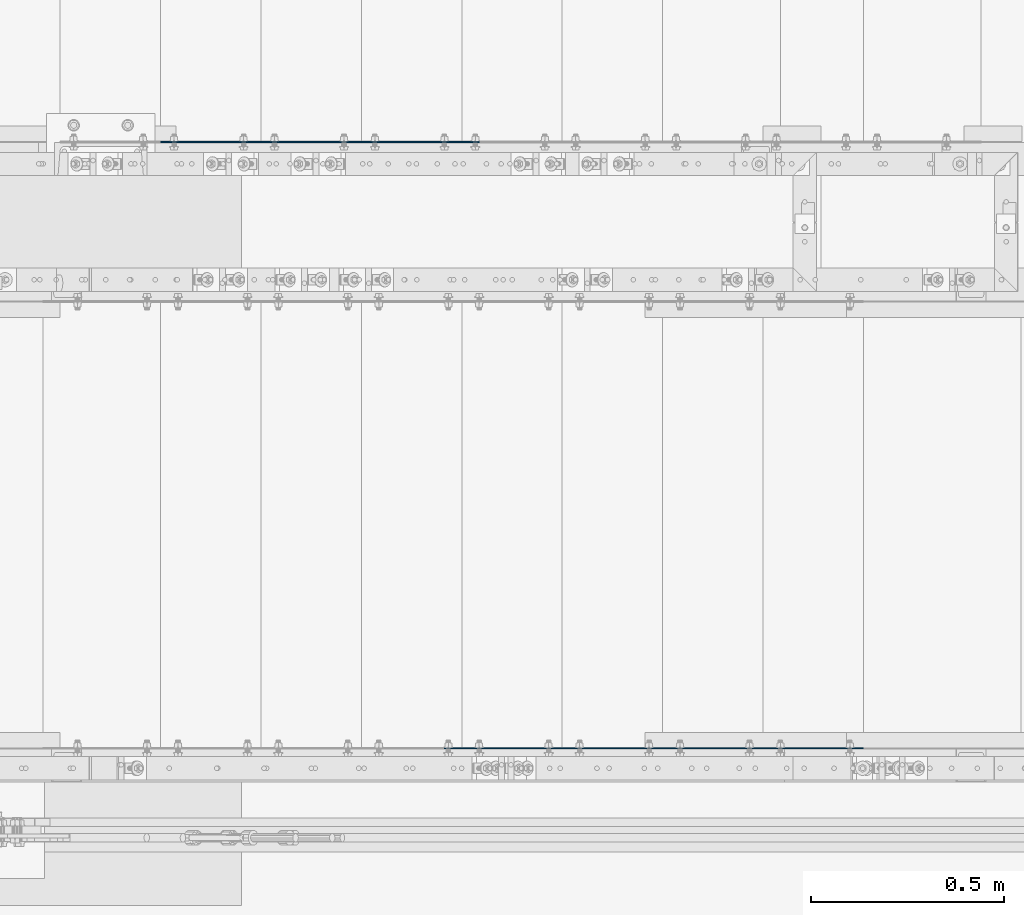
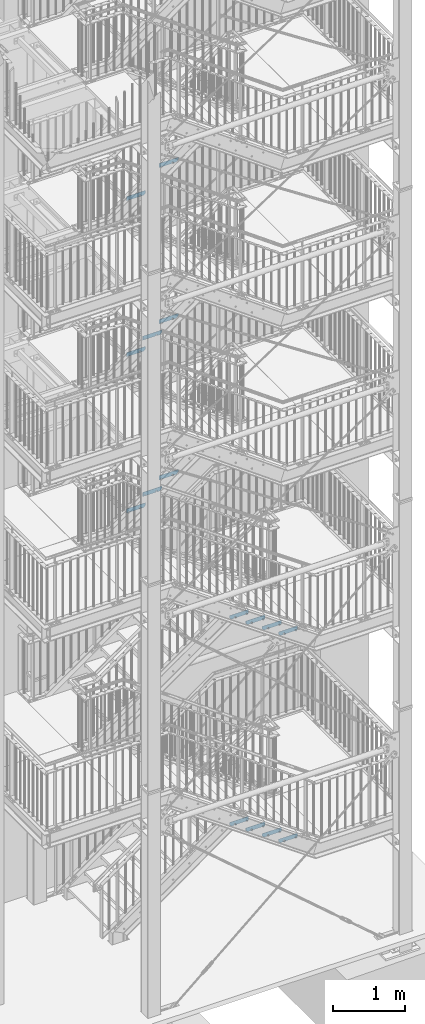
# One storey, part 168 of 825: 16 plates, 32 openings.
"""IFC2X3 building model written with IfcOpenShell, lengths in millimetres."""

from ifc_helpers import new_model, entity, si_unit, converted_unit, point, frame, frame_2d, origin, origin_with_axes, origin_2d_with_axis, place, context, project, spatial, polyline, circle_curve, line_curve, trimmed, segment, composite_curve, circle, outline, extrude, material, layer, layer_set, element, save


model = new_model("IFC2X3")

# Units and contexts
model_context = context("Model", 3, precision=1e-09, world=origin_with_axes())
ifc_project = project(units=[si_unit("LENGTHUNIT", "METRE", prefix="MILLI"), si_unit("AREAUNIT", "SQUARE_METRE"), si_unit("VOLUMEUNIT", "CUBIC_METRE"), converted_unit("PLANEANGLEUNIT", "DEGREE", entity("IfcPlaneAngleMeasure", 0.01745329), si_unit("PLANEANGLEUNIT", "RADIAN"), dimensions=[0, 0, 0, 0, 0, 0, 0])], contexts=[model_context])

# Site, building, storey
site_placement = place(None, origin_with_axes())
site = spatial("IfcSite", under=ifc_project, at=site_placement, Name="Cnopf'sche Kinderklinik", CompositionType="ELEMENT")
building_placement = place(site_placement, origin_with_axes())
building = spatial("IfcBuilding", under=site, at=building_placement, Name="Struktur 1", CompositionType="ELEMENT")
storey_placement = place(building_placement, origin_with_axes())
storey = spatial("IfcBuildingStorey", under=building, at=storey_placement, Name="Default Storey", CompositionType="ELEMENT", Elevation=0.0)

# Plate, openings
ifc_material = material(Name="S235JR")
ifc_layer = layer(ifc_material, 3.0)
ifc_layer_set = layer_set([ifc_layer], Name="S235JR")
plate_1_placement = place(None, frame((5756.713402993, 6149.736971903, 10367.2857148), z_axis=(0.0, -1.0, 0.0), x_axis=(0.0, 0.0, -1.0)))
plate_1 = element("IfcPlate", 1, at=plate_1_placement, inside=storey, material=ifc_layer_set, Name="Grate_Step#10", ObjectType="Grate_Step#10", context=model_context, shape_type="SweptSolid", body=[
    extrude(outline(polyline([(0.0, 0.0), (70.0, 0.0), (70.0, 275.0), (40.0, 305.0), (0.0, 305.0), (0.0, 0.0)])), origin_with_axes(), (0.0, 0.0, 1.0), 3.0),
])
opening_1_placement = place(plate_1_placement, frame((55.0, 35.0, -0.5), z_axis=(0.0, 0.0, 1.0), x_axis=(0.0, 1.0, 0.0)))
element("IfcOpeningElement", 2, at=opening_1_placement, cuts=plate_1, ObjectType="Opening", context=model_context, shape_type="SweptSolid", body=[
    extrude(circle(Radius=7.001, at=origin_2d_with_axis()), origin(), (0.0, 0.0, 1.0), 4.0),
])
opening_2_placement = place(plate_1_placement, frame((55.0, 215.0, -0.5), z_axis=(0.0, 0.0, 1.0), x_axis=(0.0, 1.0, 0.0)))
element("IfcOpeningElement", 3, at=opening_2_placement, cuts=plate_1, ObjectType="Opening", context=model_context, shape_type="SweptSolid", body=[
    extrude(outline(composite_curve([segment(trimmed(line_curve((-9.5, -7.001), (1.0, 0.0), 19.0), [point((-9.5, -7.001))], [point((9.5, -7.001))], True, "CARTESIAN"), True, "CONTINUOUS"), segment(trimmed(circle_curve(frame_2d((9.5, 0.0), x_axis=(1.0, 0.0)), 7.001), [point((9.5, -7.001))], [point((9.5, 7.001))], True, "CARTESIAN"), True, "CONTINUOUS"), segment(trimmed(line_curve((9.5, 7.001), (-1.0, 0.0), 19.0), [point((9.5, 7.001))], [point((-9.5, 7.001))], True, "CARTESIAN"), True, "CONTINUOUS"), segment(trimmed(circle_curve(frame_2d((-9.5, 0.0), x_axis=(1.0, 0.0)), 7.001), [point((-9.5, 7.001))], [point((-9.5, -7.001))], True, "CARTESIAN"), True, "CONTINUOUS")], self_intersect=False)), origin(), (0.0, 0.0, 1.0), 4.0),
])

plate_2_placement = place(None, frame((5496.713402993, 6149.736971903, 10179.6428577), z_axis=(0.0, -1.0, 0.0), x_axis=(0.0, 0.0, -1.0)))
plate_2 = element("IfcPlate", 4, at=plate_2_placement, inside=storey, material=ifc_layer_set, Name="Grate_Step#3", ObjectType="Grate_Step#3", context=model_context, shape_type="SweptSolid", body=[
    extrude(outline(polyline([(0.0, 0.0), (70.0, 0.0), (70.0, 275.0), (40.0, 305.0), (0.0, 305.0), (0.0, 0.0)])), origin_with_axes(), (0.0, 0.0, 1.0), 3.0),
])
opening_3_placement = place(plate_2_placement, frame((55.0, 215.0, -0.5), z_axis=(0.0, 0.0, 1.0), x_axis=(0.0, 1.0, 0.0)))
element("IfcOpeningElement", 5, at=opening_3_placement, cuts=plate_2, ObjectType="Opening", context=model_context, shape_type="SweptSolid", body=[
    extrude(outline(composite_curve([segment(trimmed(line_curve((-9.5, -7.001), (1.0, 0.0), 19.0), [point((-9.5, -7.001))], [point((9.5, -7.001))], True, "CARTESIAN"), True, "CONTINUOUS"), segment(trimmed(circle_curve(frame_2d((9.5, 0.0), x_axis=(1.0, 0.0)), 7.001), [point((9.5, -7.001))], [point((9.5, 7.001))], True, "CARTESIAN"), True, "CONTINUOUS"), segment(trimmed(line_curve((9.5, 7.001), (-1.0, 0.0), 19.0), [point((9.5, 7.001))], [point((-9.5, 7.001))], True, "CARTESIAN"), True, "CONTINUOUS"), segment(trimmed(circle_curve(frame_2d((-9.5, 0.0), x_axis=(1.0, 0.0)), 7.001), [point((-9.5, 7.001))], [point((-9.5, -7.001))], True, "CARTESIAN"), True, "CONTINUOUS")], self_intersect=False)), origin(), (0.0, 0.0, 1.0), 4.0),
])
opening_4_placement = place(plate_2_placement, frame((55.0, 35.0, -0.5), z_axis=(0.0, 0.0, 1.0), x_axis=(0.0, 1.0, 0.0)))
element("IfcOpeningElement", 6, at=opening_4_placement, cuts=plate_2, ObjectType="Opening", context=model_context, shape_type="SweptSolid", body=[
    extrude(circle(Radius=7.001, at=origin_2d_with_axis()), origin(), (0.0, 0.0, 1.0), 4.0),
])

plate_3_placement = place(None, frame((6016.713402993, 6149.736971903, 10554.9285719), z_axis=(0.0, -1.0, 0.0), x_axis=(0.0, 0.0, -1.0)))
plate_3 = element("IfcPlate", 7, at=plate_3_placement, inside=storey, material=ifc_layer_set, Name="Grate_Step#17", ObjectType="Grate_Step#17", context=model_context, shape_type="SweptSolid", body=[
    extrude(outline(polyline([(0.0, 0.0), (70.0, 0.0), (70.0, 275.0), (40.0, 305.0), (0.0, 305.0), (0.0, 0.0)])), origin_with_axes(), (0.0, 0.0, 1.0), 3.0),
])
opening_5_placement = place(plate_3_placement, frame((55.0, 35.0, -0.5), z_axis=(0.0, 0.0, 1.0), x_axis=(0.0, 1.0, 0.0)))
element("IfcOpeningElement", 8, at=opening_5_placement, cuts=plate_3, ObjectType="Opening", context=model_context, shape_type="SweptSolid", body=[
    extrude(circle(Radius=7.001, at=origin_2d_with_axis()), origin(), (0.0, 0.0, 1.0), 4.0),
])
opening_6_placement = place(plate_3_placement, frame((55.0, 215.0, -0.5), z_axis=(0.0, 0.0, 1.0), x_axis=(0.0, 1.0, 0.0)))
element("IfcOpeningElement", 9, at=opening_6_placement, cuts=plate_3, ObjectType="Opening", context=model_context, shape_type="SweptSolid", body=[
    extrude(outline(composite_curve([segment(trimmed(line_curve((-9.5, -7.001), (1.0, 0.0), 19.0), [point((-9.5, -7.001))], [point((9.5, -7.001))], True, "CARTESIAN"), True, "CONTINUOUS"), segment(trimmed(circle_curve(frame_2d((9.5, 0.0), x_axis=(1.0, 0.0)), 7.001), [point((9.5, -7.001))], [point((9.5, 7.001))], True, "CARTESIAN"), True, "CONTINUOUS"), segment(trimmed(line_curve((9.5, 7.001), (-1.0, 0.0), 19.0), [point((9.5, 7.001))], [point((-9.5, 7.001))], True, "CARTESIAN"), True, "CONTINUOUS"), segment(trimmed(circle_curve(frame_2d((-9.5, 0.0), x_axis=(1.0, 0.0)), 7.001), [point((-9.5, 7.001))], [point((-9.5, -7.001))], True, "CARTESIAN"), True, "CONTINUOUS")], self_intersect=False)), origin(), (0.0, 0.0, 1.0), 4.0),
])

plate_4_placement = place(None, frame((6016.713402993, 6149.736971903, 7924.0), z_axis=(0.0, -1.0, 0.0), x_axis=(0.0, 0.0, -1.0)))
plate_4 = element("IfcPlate", 10, at=plate_4_placement, inside=storey, material=ifc_layer_set, Name="Grate_Step#17", ObjectType="Grate_Step#17", context=model_context, shape_type="SweptSolid", body=[
    extrude(outline(polyline([(0.0, 0.0), (70.0, 0.0), (70.0, 275.0), (40.0, 305.0), (0.0, 305.0), (0.0, 0.0)])), origin_with_axes(), (0.0, 0.0, 1.0), 3.0),
])
opening_7_placement = place(plate_4_placement, frame((55.0, 215.0, -0.5), z_axis=(0.0, 0.0, 1.0), x_axis=(0.0, 1.0, 0.0)))
element("IfcOpeningElement", 11, at=opening_7_placement, cuts=plate_4, ObjectType="Opening", context=model_context, shape_type="SweptSolid", body=[
    extrude(outline(composite_curve([segment(trimmed(line_curve((-9.5, -7.001), (1.0, 0.0), 19.0), [point((-9.5, -7.001))], [point((9.5, -7.001))], True, "CARTESIAN"), True, "CONTINUOUS"), segment(trimmed(circle_curve(frame_2d((9.5, 0.0), x_axis=(1.0, 0.0)), 7.001), [point((9.5, -7.001))], [point((9.5, 7.001))], True, "CARTESIAN"), True, "CONTINUOUS"), segment(trimmed(line_curve((9.5, 7.001), (-1.0, 0.0), 19.0), [point((9.5, 7.001))], [point((-9.5, 7.001))], True, "CARTESIAN"), True, "CONTINUOUS"), segment(trimmed(circle_curve(frame_2d((-9.5, 0.0), x_axis=(1.0, 0.0)), 7.001), [point((-9.5, 7.001))], [point((-9.5, -7.001))], True, "CARTESIAN"), True, "CONTINUOUS")], self_intersect=False)), origin(), (0.0, 0.0, 1.0), 4.0),
])
opening_8_placement = place(plate_4_placement, frame((55.0, 35.0, -0.5), z_axis=(0.0, 0.0, 1.0), x_axis=(0.0, 1.0, 0.0)))
element("IfcOpeningElement", 12, at=opening_8_placement, cuts=plate_4, ObjectType="Opening", context=model_context, shape_type="SweptSolid", body=[
    extrude(circle(Radius=7.001, at=origin_2d_with_axis()), origin(), (0.0, 0.0, 1.0), 4.0),
])

plate_5_placement = place(None, frame((5496.713402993, 6149.736971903, 7548.0), z_axis=(0.0, -1.0, 0.0), x_axis=(0.0, 0.0, -1.0)))
plate_5 = element("IfcPlate", 13, at=plate_5_placement, inside=storey, material=ifc_layer_set, Name="Grate_Step#3", ObjectType="Grate_Step#3", context=model_context, shape_type="SweptSolid", body=[
    extrude(outline(polyline([(0.0, 0.0), (70.0, 0.0), (70.0, 275.0), (40.0, 305.0), (0.0, 305.0), (0.0, 0.0)])), origin_with_axes(), (0.0, 0.0, 1.0), 3.0),
])
opening_9_placement = place(plate_5_placement, frame((55.0, 215.0, -0.5), z_axis=(0.0, 0.0, 1.0), x_axis=(0.0, 1.0, 0.0)))
element("IfcOpeningElement", 14, at=opening_9_placement, cuts=plate_5, ObjectType="Opening", context=model_context, shape_type="SweptSolid", body=[
    extrude(outline(composite_curve([segment(trimmed(line_curve((-9.5, -7.001), (1.0, 0.0), 19.0), [point((-9.5, -7.001))], [point((9.5, -7.001))], True, "CARTESIAN"), True, "CONTINUOUS"), segment(trimmed(circle_curve(frame_2d((9.5, 0.0), x_axis=(1.0, 0.0)), 7.001), [point((9.5, -7.001))], [point((9.5, 7.001))], True, "CARTESIAN"), True, "CONTINUOUS"), segment(trimmed(line_curve((9.5, 7.001), (-1.0, 0.0), 19.0), [point((9.5, 7.001))], [point((-9.5, 7.001))], True, "CARTESIAN"), True, "CONTINUOUS"), segment(trimmed(circle_curve(frame_2d((-9.5, 0.0), x_axis=(1.0, 0.0)), 7.001), [point((-9.5, 7.001))], [point((-9.5, -7.001))], True, "CARTESIAN"), True, "CONTINUOUS")], self_intersect=False)), origin(), (0.0, 0.0, 1.0), 4.0),
])
opening_10_placement = place(plate_5_placement, frame((55.0, 35.0, -0.5), z_axis=(0.0, 0.0, 1.0), x_axis=(0.0, 1.0, 0.0)))
element("IfcOpeningElement", 15, at=opening_10_placement, cuts=plate_5, ObjectType="Opening", context=model_context, shape_type="SweptSolid", body=[
    extrude(circle(Radius=7.001, at=origin_2d_with_axis()), origin(), (0.0, 0.0, 1.0), 4.0),
])

plate_6_placement = place(None, frame((5756.713402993, 6149.736971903, 7736.0), z_axis=(0.0, -1.0, 0.0), x_axis=(0.0, 0.0, -1.0)))
plate_6 = element("IfcPlate", 16, at=plate_6_placement, inside=storey, material=ifc_layer_set, Name="Grate_Step#10", ObjectType="Grate_Step#10", context=model_context, shape_type="SweptSolid", body=[
    extrude(outline(polyline([(0.0, 0.0), (70.0, 0.0), (70.0, 275.0), (40.0, 305.0), (0.0, 305.0), (0.0, 0.0)])), origin_with_axes(), (0.0, 0.0, 1.0), 3.0),
])
opening_11_placement = place(plate_6_placement, frame((55.0, 215.0, -0.5), z_axis=(0.0, 0.0, 1.0), x_axis=(0.0, 1.0, 0.0)))
element("IfcOpeningElement", 17, at=opening_11_placement, cuts=plate_6, ObjectType="Opening", context=model_context, shape_type="SweptSolid", body=[
    extrude(outline(composite_curve([segment(trimmed(line_curve((-9.5, -7.001), (1.0, 0.0), 19.0), [point((-9.5, -7.001))], [point((9.5, -7.001))], True, "CARTESIAN"), True, "CONTINUOUS"), segment(trimmed(circle_curve(frame_2d((9.5, 0.0), x_axis=(1.0, 0.0)), 7.001), [point((9.5, -7.001))], [point((9.5, 7.001))], True, "CARTESIAN"), True, "CONTINUOUS"), segment(trimmed(line_curve((9.5, 7.001), (-1.0, 0.0), 19.0), [point((9.5, 7.001))], [point((-9.5, 7.001))], True, "CARTESIAN"), True, "CONTINUOUS"), segment(trimmed(circle_curve(frame_2d((-9.5, 0.0), x_axis=(1.0, 0.0)), 7.001), [point((-9.5, 7.001))], [point((-9.5, -7.001))], True, "CARTESIAN"), True, "CONTINUOUS")], self_intersect=False)), origin(), (0.0, 0.0, 1.0), 4.0),
])
opening_12_placement = place(plate_6_placement, frame((55.0, 35.0, -0.5), z_axis=(0.0, 0.0, 1.0), x_axis=(0.0, 1.0, 0.0)))
element("IfcOpeningElement", 18, at=opening_12_placement, cuts=plate_6, ObjectType="Opening", context=model_context, shape_type="SweptSolid", body=[
    extrude(circle(Radius=7.001, at=origin_2d_with_axis()), origin(), (0.0, 0.0, 1.0), 4.0),
])

plate_7_placement = place(None, frame((6016.713402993, 6149.736971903, 13183.6428573), z_axis=(0.0, -1.0, 0.0), x_axis=(0.0, 0.0, -1.0)))
plate_7 = element("IfcPlate", 19, at=plate_7_placement, inside=storey, material=ifc_layer_set, Name="Grate_Step#17", ObjectType="Grate_Step#17", context=model_context, shape_type="SweptSolid", body=[
    extrude(outline(polyline([(0.0, 0.0), (70.0, 0.0), (70.0, 275.0), (40.0, 305.0), (0.0, 305.0), (0.0, 0.0)])), origin_with_axes(), (0.0, 0.0, 1.0), 3.0),
])
opening_13_placement = place(plate_7_placement, frame((55.0, 35.0, -0.5), z_axis=(0.0, 0.0, 1.0), x_axis=(0.0, 1.0, 0.0)))
element("IfcOpeningElement", 20, at=opening_13_placement, cuts=plate_7, ObjectType="Opening", context=model_context, shape_type="SweptSolid", body=[
    extrude(circle(Radius=7.001, at=origin_2d_with_axis()), origin(), (0.0, 0.0, 1.0), 4.0),
])
opening_14_placement = place(plate_7_placement, frame((55.0, 215.0, -0.5), z_axis=(0.0, 0.0, 1.0), x_axis=(0.0, 1.0, 0.0)))
element("IfcOpeningElement", 21, at=opening_14_placement, cuts=plate_7, ObjectType="Opening", context=model_context, shape_type="SweptSolid", body=[
    extrude(outline(composite_curve([segment(trimmed(line_curve((-9.5, -7.001), (1.0, 0.0), 19.0), [point((-9.5, -7.001))], [point((9.5, -7.001))], True, "CARTESIAN"), True, "CONTINUOUS"), segment(trimmed(circle_curve(frame_2d((9.5, 0.0), x_axis=(1.0, 0.0)), 7.001), [point((9.5, -7.001))], [point((9.5, 7.001))], True, "CARTESIAN"), True, "CONTINUOUS"), segment(trimmed(line_curve((9.5, 7.001), (-1.0, 0.0), 19.0), [point((9.5, 7.001))], [point((-9.5, 7.001))], True, "CARTESIAN"), True, "CONTINUOUS"), segment(trimmed(circle_curve(frame_2d((-9.5, 0.0), x_axis=(1.0, 0.0)), 7.001), [point((-9.5, 7.001))], [point((-9.5, -7.001))], True, "CARTESIAN"), True, "CONTINUOUS")], self_intersect=False)), origin(), (0.0, 0.0, 1.0), 4.0),
])

plate_8_placement = place(None, frame((5496.713402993, 6149.736971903, 12807.2142859), z_axis=(0.0, -1.0, 0.0), x_axis=(0.0, 0.0, -1.0)))
plate_8 = element("IfcPlate", 22, at=plate_8_placement, inside=storey, material=ifc_layer_set, Name="Grate_Step#3", ObjectType="Grate_Step#3", context=model_context, shape_type="SweptSolid", body=[
    extrude(outline(polyline([(0.0, 0.0), (70.0, 0.0), (70.0, 275.0), (40.0, 305.0), (0.0, 305.0), (0.0, 0.0)])), origin_with_axes(), (0.0, 0.0, 1.0), 3.0),
])
opening_15_placement = place(plate_8_placement, frame((55.0, 215.0, -0.5), z_axis=(0.0, 0.0, 1.0), x_axis=(0.0, 1.0, 0.0)))
element("IfcOpeningElement", 23, at=opening_15_placement, cuts=plate_8, ObjectType="Opening", context=model_context, shape_type="SweptSolid", body=[
    extrude(outline(composite_curve([segment(trimmed(line_curve((-9.5, -7.001), (1.0, 0.0), 19.0), [point((-9.5, -7.001))], [point((9.5, -7.001))], True, "CARTESIAN"), True, "CONTINUOUS"), segment(trimmed(circle_curve(frame_2d((9.5, 0.0), x_axis=(1.0, 0.0)), 7.001), [point((9.5, -7.001))], [point((9.5, 7.001))], True, "CARTESIAN"), True, "CONTINUOUS"), segment(trimmed(line_curve((9.5, 7.001), (-1.0, 0.0), 19.0), [point((9.5, 7.001))], [point((-9.5, 7.001))], True, "CARTESIAN"), True, "CONTINUOUS"), segment(trimmed(circle_curve(frame_2d((-9.5, 0.0), x_axis=(1.0, 0.0)), 7.001), [point((-9.5, 7.001))], [point((-9.5, -7.001))], True, "CARTESIAN"), True, "CONTINUOUS")], self_intersect=False)), origin(), (0.0, 0.0, 1.0), 4.0),
])
opening_16_placement = place(plate_8_placement, frame((55.0, 35.0, -0.5), z_axis=(0.0, 0.0, 1.0), x_axis=(0.0, 1.0, 0.0)))
element("IfcOpeningElement", 24, at=opening_16_placement, cuts=plate_8, ObjectType="Opening", context=model_context, shape_type="SweptSolid", body=[
    extrude(circle(Radius=7.001, at=origin_2d_with_axis()), origin(), (0.0, 0.0, 1.0), 4.0),
])

plate_9_placement = place(None, frame((6536.713402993, 4576.736971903, 6446.0526315), z_axis=(0.0, 1.0, 0.0), x_axis=(0.0, 0.0, -1.0)))
plate_9 = element("IfcPlate", 25, at=plate_9_placement, inside=storey, material=ifc_layer_set, Name="Grate_Step#23", ObjectType="Grate_Step#23", context=model_context, shape_type="SweptSolid", body=[
    extrude(outline(polyline([(0.0, 0.0), (70.0, 0.0), (70.0, 275.0), (40.0, 305.0), (0.0, 305.0), (0.0, 0.0)])), origin_with_axes(), (0.0, 0.0, 1.0), 3.0),
])
opening_17_placement = place(plate_9_placement, frame((55.0, 35.0, 3.5), z_axis=(0.0, 0.0, -1.0), x_axis=(0.0, 1.0, 0.0)))
element("IfcOpeningElement", 26, at=opening_17_placement, cuts=plate_9, ObjectType="Opening", context=model_context, shape_type="SweptSolid", body=[
    extrude(circle(Radius=7.001, at=origin_2d_with_axis()), origin(), (0.0, 0.0, 1.0), 4.0),
])
opening_18_placement = place(plate_9_placement, frame((55.0, 215.0, 3.5), z_axis=(0.0, 0.0, -1.0), x_axis=(0.0, 1.0, 0.0)))
element("IfcOpeningElement", 27, at=opening_18_placement, cuts=plate_9, ObjectType="Opening", context=model_context, shape_type="SweptSolid", body=[
    extrude(outline(composite_curve([segment(trimmed(line_curve((-9.5, -7.001), (1.0, 0.0), 19.0), [point((-9.5, -7.001))], [point((9.5, -7.001))], True, "CARTESIAN"), True, "CONTINUOUS"), segment(trimmed(circle_curve(frame_2d((9.5, 0.0), x_axis=(1.0, 0.0)), 7.001), [point((9.5, -7.001))], [point((9.5, 7.001))], True, "CARTESIAN"), True, "CONTINUOUS"), segment(trimmed(line_curve((9.5, 7.001), (-1.0, 0.0), 19.0), [point((9.5, 7.001))], [point((-9.5, 7.001))], True, "CARTESIAN"), True, "CONTINUOUS"), segment(trimmed(circle_curve(frame_2d((-9.5, 0.0), x_axis=(1.0, 0.0)), 7.001), [point((-9.5, 7.001))], [point((-9.5, -7.001))], True, "CARTESIAN"), True, "CONTINUOUS")], self_intersect=False)), origin(), (0.0, 0.0, 1.0), 4.0),
])

plate_10_placement = place(None, frame((7316.713402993, 4576.736971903, 5897.6842104), z_axis=(0.0, 1.0, 0.0), x_axis=(0.0, 0.0, -1.0)))
plate_10 = element("IfcPlate", 28, at=plate_10_placement, inside=storey, material=ifc_layer_set, Name="Grate_Step#2", ObjectType="Grate_Step#2", context=model_context, shape_type="SweptSolid", body=[
    extrude(outline(polyline([(0.0, 0.0), (70.0, 0.0), (70.0, 275.0), (40.0, 305.0), (0.0, 305.0), (0.0, 0.0)])), origin_with_axes(), (0.0, 0.0, 1.0), 3.0),
])
opening_19_placement = place(plate_10_placement, frame((55.0, 35.0, 3.5), z_axis=(0.0, 0.0, -1.0), x_axis=(0.0, 1.0, 0.0)))
element("IfcOpeningElement", 29, at=opening_19_placement, cuts=plate_10, ObjectType="Opening", context=model_context, shape_type="SweptSolid", body=[
    extrude(circle(Radius=7.001, at=origin_2d_with_axis()), origin(), (0.0, 0.0, 1.0), 4.0),
])
opening_20_placement = place(plate_10_placement, frame((55.0, 215.0, 3.5), z_axis=(0.0, 0.0, -1.0), x_axis=(0.0, 1.0, 0.0)))
element("IfcOpeningElement", 30, at=opening_20_placement, cuts=plate_10, ObjectType="Opening", context=model_context, shape_type="SweptSolid", body=[
    extrude(outline(composite_curve([segment(trimmed(line_curve((-9.5, -7.001), (1.0, 0.0), 19.0), [point((-9.5, -7.001))], [point((9.5, -7.001))], True, "CARTESIAN"), True, "CONTINUOUS"), segment(trimmed(circle_curve(frame_2d((9.5, 0.0), x_axis=(1.0, 0.0)), 7.001), [point((9.5, -7.001))], [point((9.5, 7.001))], True, "CARTESIAN"), True, "CONTINUOUS"), segment(trimmed(line_curve((9.5, 7.001), (-1.0, 0.0), 19.0), [point((9.5, 7.001))], [point((-9.5, 7.001))], True, "CARTESIAN"), True, "CONTINUOUS"), segment(trimmed(circle_curve(frame_2d((-9.5, 0.0), x_axis=(1.0, 0.0)), 7.001), [point((-9.5, 7.001))], [point((-9.5, -7.001))], True, "CARTESIAN"), True, "CONTINUOUS")], self_intersect=False)), origin(), (0.0, 0.0, 1.0), 4.0),
])

plate_11_placement = place(None, frame((6796.713402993, 4576.736971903, 2776.3684208), z_axis=(0.0, 1.0, 0.0), x_axis=(0.0, 0.0, -1.0)))
plate_11 = element("IfcPlate", 31, at=plate_11_placement, inside=storey, material=ifc_layer_set, Name="Grate_Step#16", ObjectType="Grate_Step#16", context=model_context, shape_type="SweptSolid", body=[
    extrude(outline(polyline([(0.0, 0.0), (70.0, 0.0), (70.0, 275.0), (40.0, 305.0), (0.0, 305.0), (0.0, 0.0)])), origin_with_axes(), (0.0, 0.0, 1.0), 3.0),
])
opening_21_placement = place(plate_11_placement, frame((55.0, 215.0, 3.5), z_axis=(0.0, 0.0, -1.0), x_axis=(0.0, 1.0, 0.0)))
element("IfcOpeningElement", 32, at=opening_21_placement, cuts=plate_11, ObjectType="Opening", context=model_context, shape_type="SweptSolid", body=[
    extrude(outline(composite_curve([segment(trimmed(line_curve((-9.5, -7.001), (1.0, 0.0), 19.0), [point((-9.5, -7.001))], [point((9.5, -7.001))], True, "CARTESIAN"), True, "CONTINUOUS"), segment(trimmed(circle_curve(frame_2d((9.5, 0.0), x_axis=(1.0, 0.0)), 7.001), [point((9.5, -7.001))], [point((9.5, 7.001))], True, "CARTESIAN"), True, "CONTINUOUS"), segment(trimmed(line_curve((9.5, 7.001), (-1.0, 0.0), 19.0), [point((9.5, 7.001))], [point((-9.5, 7.001))], True, "CARTESIAN"), True, "CONTINUOUS"), segment(trimmed(circle_curve(frame_2d((-9.5, 0.0), x_axis=(1.0, 0.0)), 7.001), [point((-9.5, 7.001))], [point((-9.5, -7.001))], True, "CARTESIAN"), True, "CONTINUOUS")], self_intersect=False)), origin(), (0.0, 0.0, 1.0), 4.0),
])
opening_22_placement = place(plate_11_placement, frame((55.0, 35.0, 3.5), z_axis=(0.0, 0.0, -1.0), x_axis=(0.0, 1.0, 0.0)))
element("IfcOpeningElement", 33, at=opening_22_placement, cuts=plate_11, ObjectType="Opening", context=model_context, shape_type="SweptSolid", body=[
    extrude(circle(Radius=7.001, at=origin_2d_with_axis()), origin(), (0.0, 0.0, 1.0), 4.0),
])

plate_12_placement = place(None, frame((7316.713402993, 4576.736971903, 2406.1578944), z_axis=(0.0, 1.0, 0.0), x_axis=(0.0, 0.0, -1.0)))
plate_12 = element("IfcPlate", 34, at=plate_12_placement, inside=storey, material=ifc_layer_set, Name="Grate_Step#2", ObjectType="Grate_Step#2", context=model_context, shape_type="SweptSolid", body=[
    extrude(outline(polyline([(0.0, 0.0), (70.0, 0.0), (70.0, 275.0), (40.0, 305.0), (0.0, 305.0), (0.0, 0.0)])), origin_with_axes(), (0.0, 0.0, 1.0), 3.0),
])
opening_23_placement = place(plate_12_placement, frame((55.0, 215.0, 3.5), z_axis=(0.0, 0.0, -1.0), x_axis=(0.0, 1.0, 0.0)))
element("IfcOpeningElement", 35, at=opening_23_placement, cuts=plate_12, ObjectType="Opening", context=model_context, shape_type="SweptSolid", body=[
    extrude(outline(composite_curve([segment(trimmed(line_curve((-9.5, -7.001), (1.0, 0.0), 19.0), [point((-9.5, -7.001))], [point((9.5, -7.001))], True, "CARTESIAN"), True, "CONTINUOUS"), segment(trimmed(circle_curve(frame_2d((9.5, 0.0), x_axis=(1.0, 0.0)), 7.001), [point((9.5, -7.001))], [point((9.5, 7.001))], True, "CARTESIAN"), True, "CONTINUOUS"), segment(trimmed(line_curve((9.5, 7.001), (-1.0, 0.0), 19.0), [point((9.5, 7.001))], [point((-9.5, 7.001))], True, "CARTESIAN"), True, "CONTINUOUS"), segment(trimmed(circle_curve(frame_2d((-9.5, 0.0), x_axis=(1.0, 0.0)), 7.001), [point((-9.5, 7.001))], [point((-9.5, -7.001))], True, "CARTESIAN"), True, "CONTINUOUS")], self_intersect=False)), origin(), (0.0, 0.0, 1.0), 4.0),
])
opening_24_placement = place(plate_12_placement, frame((55.0, 35.0, 3.5), z_axis=(0.0, 0.0, -1.0), x_axis=(0.0, 1.0, 0.0)))
element("IfcOpeningElement", 36, at=opening_24_placement, cuts=plate_12, ObjectType="Opening", context=model_context, shape_type="SweptSolid", body=[
    extrude(circle(Radius=7.001, at=origin_2d_with_axis()), origin(), (0.0, 0.0, 1.0), 4.0),
])

plate_13_placement = place(None, frame((7056.713402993, 4576.736971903, 6080.4736841), z_axis=(0.0, 1.0, 0.0), x_axis=(0.0, 0.0, -1.0)))
plate_13 = element("IfcPlate", 37, at=plate_13_placement, inside=storey, material=ifc_layer_set, Name="Grate_Step#9", ObjectType="Grate_Step#9", context=model_context, shape_type="SweptSolid", body=[
    extrude(outline(polyline([(0.0, 0.0), (70.0, 0.0), (70.0, 275.0), (40.0, 305.0), (0.0, 305.0), (0.0, 0.0)])), origin_with_axes(), (0.0, 0.0, 1.0), 3.0),
])
opening_25_placement = place(plate_13_placement, frame((55.0, 215.0, 3.5), z_axis=(0.0, 0.0, -1.0), x_axis=(0.0, 1.0, 0.0)))
element("IfcOpeningElement", 38, at=opening_25_placement, cuts=plate_13, ObjectType="Opening", context=model_context, shape_type="SweptSolid", body=[
    extrude(outline(composite_curve([segment(trimmed(line_curve((-9.5, -7.001), (1.0, 0.0), 19.0), [point((-9.5, -7.001))], [point((9.5, -7.001))], True, "CARTESIAN"), True, "CONTINUOUS"), segment(trimmed(circle_curve(frame_2d((9.5, 0.0), x_axis=(1.0, 0.0)), 7.001), [point((9.5, -7.001))], [point((9.5, 7.001))], True, "CARTESIAN"), True, "CONTINUOUS"), segment(trimmed(line_curve((9.5, 7.001), (-1.0, 0.0), 19.0), [point((9.5, 7.001))], [point((-9.5, 7.001))], True, "CARTESIAN"), True, "CONTINUOUS"), segment(trimmed(circle_curve(frame_2d((-9.5, 0.0), x_axis=(1.0, 0.0)), 7.001), [point((-9.5, 7.001))], [point((-9.5, -7.001))], True, "CARTESIAN"), True, "CONTINUOUS")], self_intersect=False)), origin(), (0.0, 0.0, 1.0), 4.0),
])
opening_26_placement = place(plate_13_placement, frame((55.0, 35.0, 3.5), z_axis=(0.0, 0.0, -1.0), x_axis=(0.0, 1.0, 0.0)))
element("IfcOpeningElement", 39, at=opening_26_placement, cuts=plate_13, ObjectType="Opening", context=model_context, shape_type="SweptSolid", body=[
    extrude(circle(Radius=7.001, at=origin_2d_with_axis()), origin(), (0.0, 0.0, 1.0), 4.0),
])

plate_14_placement = place(None, frame((7056.713402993, 4576.736971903, 2591.2631576), z_axis=(0.0, 1.0, 0.0), x_axis=(0.0, 0.0, -1.0)))
plate_14 = element("IfcPlate", 40, at=plate_14_placement, inside=storey, material=ifc_layer_set, Name="Grate_Step#9", ObjectType="Grate_Step#9", context=model_context, shape_type="SweptSolid", body=[
    extrude(outline(polyline([(0.0, 0.0), (70.0, 0.0), (70.0, 275.0), (40.0, 305.0), (0.0, 305.0), (0.0, 0.0)])), origin_with_axes(), (0.0, 0.0, 1.0), 3.0),
])
opening_27_placement = place(plate_14_placement, frame((55.0, 215.0, 3.5), z_axis=(0.0, 0.0, -1.0), x_axis=(0.0, 1.0, 0.0)))
element("IfcOpeningElement", 41, at=opening_27_placement, cuts=plate_14, ObjectType="Opening", context=model_context, shape_type="SweptSolid", body=[
    extrude(outline(composite_curve([segment(trimmed(line_curve((-9.5, -7.001), (1.0, 0.0), 19.0), [point((-9.5, -7.001))], [point((9.5, -7.001))], True, "CARTESIAN"), True, "CONTINUOUS"), segment(trimmed(circle_curve(frame_2d((9.5, 0.0), x_axis=(1.0, 0.0)), 7.001), [point((9.5, -7.001))], [point((9.5, 7.001))], True, "CARTESIAN"), True, "CONTINUOUS"), segment(trimmed(line_curve((9.5, 7.001), (-1.0, 0.0), 19.0), [point((9.5, 7.001))], [point((-9.5, 7.001))], True, "CARTESIAN"), True, "CONTINUOUS"), segment(trimmed(circle_curve(frame_2d((-9.5, 0.0), x_axis=(1.0, 0.0)), 7.001), [point((-9.5, 7.001))], [point((-9.5, -7.001))], True, "CARTESIAN"), True, "CONTINUOUS")], self_intersect=False)), origin(), (0.0, 0.0, 1.0), 4.0),
])
opening_28_placement = place(plate_14_placement, frame((55.0, 35.0, 3.5), z_axis=(0.0, 0.0, -1.0), x_axis=(0.0, 1.0, 0.0)))
element("IfcOpeningElement", 42, at=opening_28_placement, cuts=plate_14, ObjectType="Opening", context=model_context, shape_type="SweptSolid", body=[
    extrude(circle(Radius=7.001, at=origin_2d_with_axis()), origin(), (0.0, 0.0, 1.0), 4.0),
])

plate_15_placement = place(None, frame((6796.713402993, 4576.736971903, 6263.2631578), z_axis=(0.0, 1.0, 0.0), x_axis=(0.0, 0.0, -1.0)))
plate_15 = element("IfcPlate", 43, at=plate_15_placement, inside=storey, material=ifc_layer_set, Name="Grate_Step#16", ObjectType="Grate_Step#16", context=model_context, shape_type="SweptSolid", body=[
    extrude(outline(polyline([(0.0, 0.0), (70.0, 0.0), (70.0, 275.0), (40.0, 305.0), (0.0, 305.0), (0.0, 0.0)])), origin_with_axes(), (0.0, 0.0, 1.0), 3.0),
])
opening_29_placement = place(plate_15_placement, frame((55.0, 35.0, 3.5), z_axis=(0.0, 0.0, -1.0), x_axis=(0.0, 1.0, 0.0)))
element("IfcOpeningElement", 44, at=opening_29_placement, cuts=plate_15, ObjectType="Opening", context=model_context, shape_type="SweptSolid", body=[
    extrude(circle(Radius=7.001, at=origin_2d_with_axis()), origin(), (0.0, 0.0, 1.0), 4.0),
])
opening_30_placement = place(plate_15_placement, frame((55.0, 215.0, 3.5), z_axis=(0.0, 0.0, -1.0), x_axis=(0.0, 1.0, 0.0)))
element("IfcOpeningElement", 45, at=opening_30_placement, cuts=plate_15, ObjectType="Opening", context=model_context, shape_type="SweptSolid", body=[
    extrude(outline(composite_curve([segment(trimmed(line_curve((-9.5, -7.001), (1.0, 0.0), 19.0), [point((-9.5, -7.001))], [point((9.5, -7.001))], True, "CARTESIAN"), True, "CONTINUOUS"), segment(trimmed(circle_curve(frame_2d((9.5, 0.0), x_axis=(1.0, 0.0)), 7.001), [point((9.5, -7.001))], [point((9.5, 7.001))], True, "CARTESIAN"), True, "CONTINUOUS"), segment(trimmed(line_curve((9.5, 7.001), (-1.0, 0.0), 19.0), [point((9.5, 7.001))], [point((-9.5, 7.001))], True, "CARTESIAN"), True, "CONTINUOUS"), segment(trimmed(circle_curve(frame_2d((-9.5, 0.0), x_axis=(1.0, 0.0)), 7.001), [point((-9.5, 7.001))], [point((-9.5, -7.001))], True, "CARTESIAN"), True, "CONTINUOUS")], self_intersect=False)), origin(), (0.0, 0.0, 1.0), 4.0),
])

plate_16_placement = place(None, frame((6536.713402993, 4576.736971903, 2961.473684), z_axis=(0.0, 1.0, 0.0), x_axis=(0.0, 0.0, -1.0)))
plate_16 = element("IfcPlate", 46, at=plate_16_placement, inside=storey, material=ifc_layer_set, Name="Grate_Step#23", ObjectType="Grate_Step#23", context=model_context, shape_type="SweptSolid", body=[
    extrude(outline(polyline([(0.0, 0.0), (70.0, 0.0), (70.0, 275.0), (40.0, 305.0), (0.0, 305.0), (0.0, 0.0)])), origin_with_axes(), (0.0, 0.0, 1.0), 3.0),
])
opening_31_placement = place(plate_16_placement, frame((55.0, 35.0, 3.5), z_axis=(0.0, 0.0, -1.0), x_axis=(0.0, 1.0, 0.0)))
element("IfcOpeningElement", 47, at=opening_31_placement, cuts=plate_16, ObjectType="Opening", context=model_context, shape_type="SweptSolid", body=[
    extrude(circle(Radius=7.001, at=origin_2d_with_axis()), origin(), (0.0, 0.0, 1.0), 4.0),
])
opening_32_placement = place(plate_16_placement, frame((55.0, 215.0, 3.5), z_axis=(0.0, 0.0, -1.0), x_axis=(0.0, 1.0, 0.0)))
element("IfcOpeningElement", 48, at=opening_32_placement, cuts=plate_16, ObjectType="Opening", context=model_context, shape_type="SweptSolid", body=[
    extrude(outline(composite_curve([segment(trimmed(line_curve((-9.5, -7.001), (1.0, 0.0), 19.0), [point((-9.5, -7.001))], [point((9.5, -7.001))], True, "CARTESIAN"), True, "CONTINUOUS"), segment(trimmed(circle_curve(frame_2d((9.5, 0.0), x_axis=(1.0, 0.0)), 7.001), [point((9.5, -7.001))], [point((9.5, 7.001))], True, "CARTESIAN"), True, "CONTINUOUS"), segment(trimmed(line_curve((9.5, 7.001), (-1.0, 0.0), 19.0), [point((9.5, 7.001))], [point((-9.5, 7.001))], True, "CARTESIAN"), True, "CONTINUOUS"), segment(trimmed(circle_curve(frame_2d((-9.5, 0.0), x_axis=(1.0, 0.0)), 7.001), [point((-9.5, 7.001))], [point((-9.5, -7.001))], True, "CARTESIAN"), True, "CONTINUOUS")], self_intersect=False)), origin(), (0.0, 0.0, 1.0), 4.0),
])

save(model, "model.ifc")
